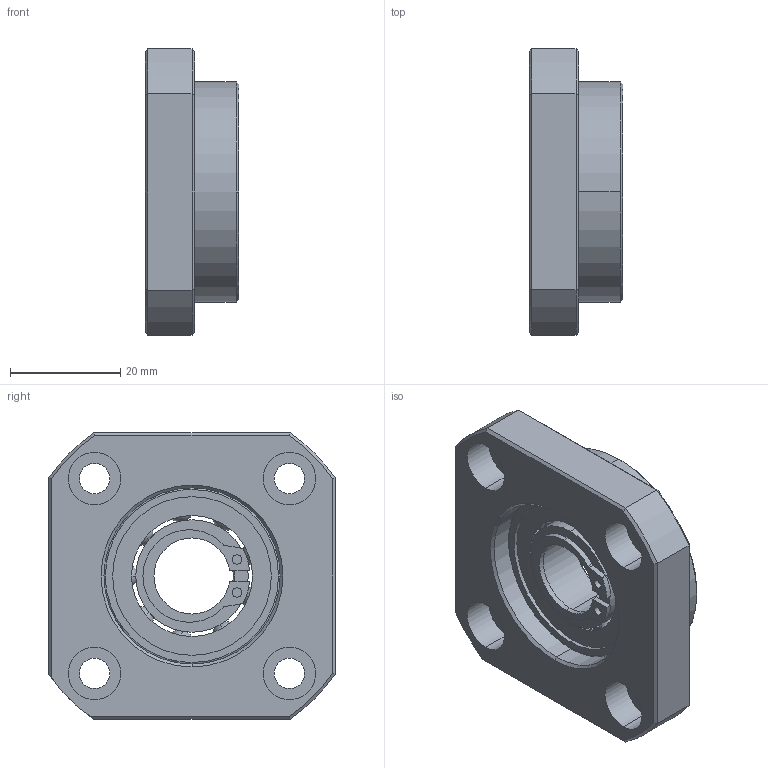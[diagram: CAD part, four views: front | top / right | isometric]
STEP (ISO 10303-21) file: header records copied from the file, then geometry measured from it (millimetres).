
FILE_DESCRIPTION (( 'STEP AP214' ), '1' );
FILE_NAME ('7.4025 FF15.STEP', '2026-03-06T07:50:26', ( '' ), ( '' ), 'SwSTEP 2.0', 'SolidWorks 2025', '' );
FILE_SCHEMA (( 'AUTOMOTIVE_DESIGN' ));
Length unit declared in the file: millimetre
Products named in the file (1): 7.4025 FF15
Bounding box: 17 x 52 x 52 mm (x, y, z)
Volume: 21265.8 mm3; surface area: 13928.6 mm2
Topology: 3 solids, 3 shells, 321 faces, 915 edges, 595 vertices
Faces by surface type: sphere 108, plane 80, cylinder 64, torus 39, bspline 17, cone 13
Entity records: 20615 total; most frequent: CARTESIAN_POINT 9958, ORIENTED_EDGE 1830, DIRECTION 1644, EDGE_CURVE 915, AXIS2_PLACEMENT_3D 726, VERTEX_POINT 595, CIRCLE 421, EDGE_LOOP 368
